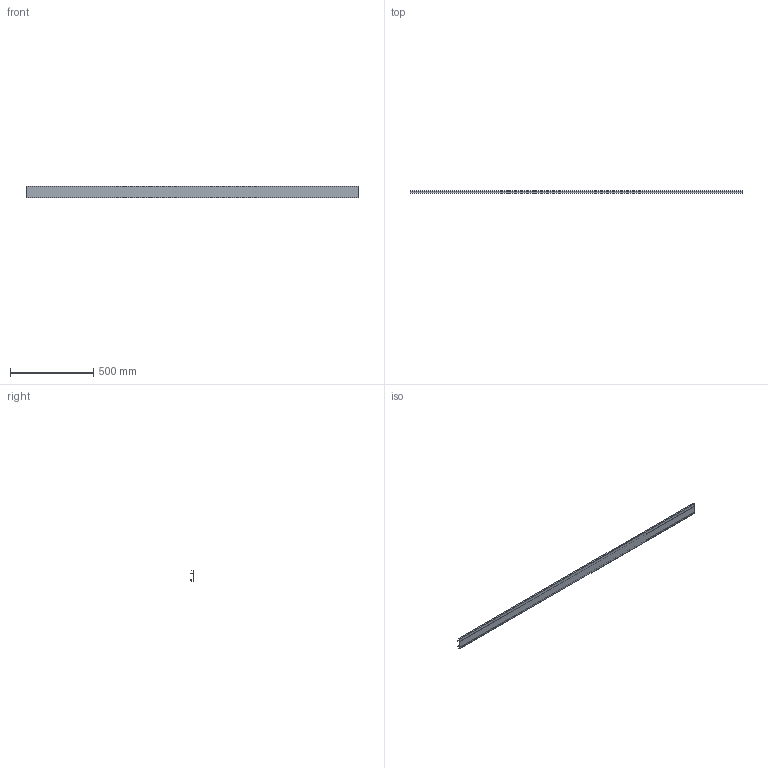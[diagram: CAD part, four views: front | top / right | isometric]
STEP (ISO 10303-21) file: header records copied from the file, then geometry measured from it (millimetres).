
FILE_DESCRIPTION(('STEP AP242'),'1');
FILE_NAME('OPO_65.084.21_volu_3d.stp','2026-02-23T17:30:23',(' '),(' '),'Spatial InterOp 3D',' ',' ');
FILE_SCHEMA(('AP242_MANAGED_MODEL_BASED_3D_ENGINEERING_MIM_LF {1 0 10303 442 1 1 4}'));
Length unit declared in the file: millimetre
Products named in the file (1): 1
Bounding box: 2000 x 16.27 x 72 mm (x, y, z)
Volume: 348664.2 mm3; surface area: 472276.1 mm2
Topology: 1 solids, 1 shells, 63 faces, 169 edges, 112 vertices
Faces by surface type: plane 43, cylinder 20
Entity records: 2487 total; most frequent: CARTESIAN_POINT 345, ORIENTED_EDGE 338, DIRECTION 337, EDGE_CURVE 169, LINE 129, VECTOR 129, VERTEX_POINT 112, AXIS2_PLACEMENT_3D 104
